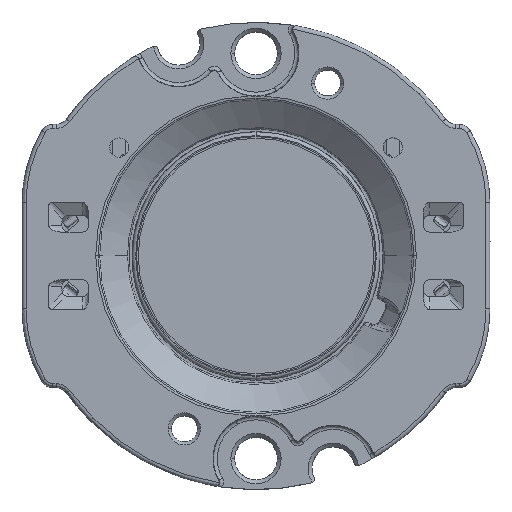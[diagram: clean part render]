
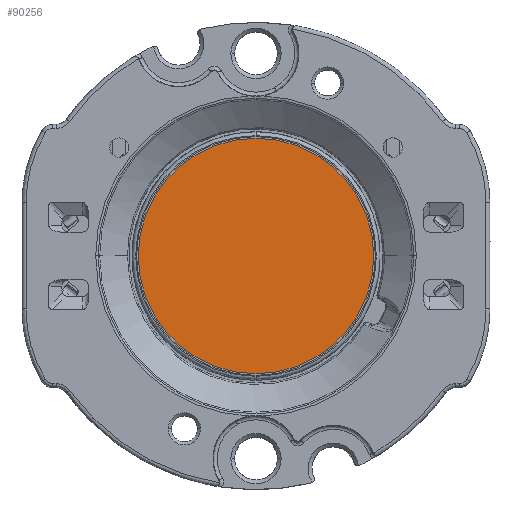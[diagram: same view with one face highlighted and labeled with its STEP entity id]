
A CAD part, top view. The second image highlights one B-rep face of the part: STEP entity #90256.
In plain terms, the highlighted planar face has unit normal (0, 0, 1).
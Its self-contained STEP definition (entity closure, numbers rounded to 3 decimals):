
#3212 = DIRECTION ( 'NONE',  ( 0., 0., 1. ) ) ;
#13090 = CARTESIAN_POINT ( 'NONE',  ( 0., 0., 1.446 ) ) ;
#13114 = ORIENTED_EDGE ( 'NONE', *, *, #92522, .T. ) ;
#13242 = AXIS2_PLACEMENT_3D ( 'NONE', #21224, #73927, #28873 ) ;
#14759 = EDGE_CURVE ( 'NONE', #37235, #18494, #51820, .T. ) ;
#18494 = VERTEX_POINT ( 'NONE', #48651 ) ;
#20579 = PLANE ( 'NONE',  #13242 ) ;
#20708 = DIRECTION ( 'NONE',  ( 0., -1., 0. ) ) ;
#21224 = CARTESIAN_POINT ( 'NONE',  ( 0., 0., 1.446 ) ) ;
#28873 = DIRECTION ( 'NONE',  ( 0., -1., 0. ) ) ;
#31615 = AXIS2_PLACEMENT_3D ( 'NONE', #13090, #65883, #20708 ) ;
#35917 = CARTESIAN_POINT ( 'NONE',  ( 0., -9.125, 1.446 ) ) ;
#37235 = VERTEX_POINT ( 'NONE', #35917 ) ;
#37344 = ORIENTED_EDGE ( 'NONE', *, *, #14759, .T. ) ;
#48459 = CARTESIAN_POINT ( 'NONE',  ( 0., 0., 1.446 ) ) ;
#48651 = CARTESIAN_POINT ( 'NONE',  ( 0., 9.125, 1.446 ) ) ;
#51820 = CIRCLE ( 'NONE', #82680, 9.125 ) ;
#54050 = CIRCLE ( 'NONE', #31615, 9.125 ) ;
#56004 = DIRECTION ( 'NONE',  ( 0., -1., 0. ) ) ;
#65883 = DIRECTION ( 'NONE',  ( 0., 0., 1. ) ) ;
#73927 = DIRECTION ( 'NONE',  ( 0., 0., 1. ) ) ;
#79772 = FACE_OUTER_BOUND ( 'NONE', #80750, .T. ) ;
#80750 = EDGE_LOOP ( 'NONE', ( #13114, #37344 ) ) ;
#82680 = AXIS2_PLACEMENT_3D ( 'NONE', #48459, #3212, #56004 ) ;
#90256 = ADVANCED_FACE ( 'NONE', ( #79772 ), #20579, .T. ) ;
#92522 = EDGE_CURVE ( 'NONE', #18494, #37235, #54050, .T. ) ;
